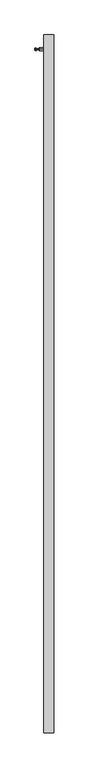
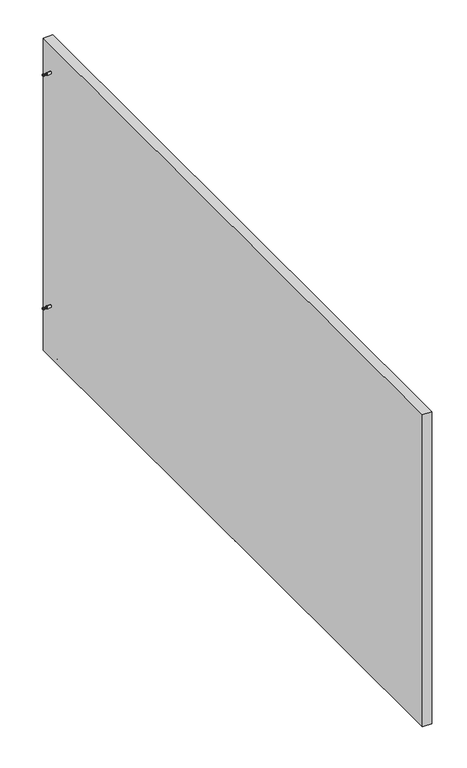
"""IFC4 building model written with IfcOpenShell, lengths in millimetres: furniture geometry, Geiger_GeigerOneCasegoods_VerticalGalleryPanelNoGlassNoCutOuts : Attaches Left."""

from ifc_helpers import new_model, si_unit, point, frame, frame_2d, origin, origin_with_axes, place, context, project, spatial, polyline, circle_curve, ellipse_curve, trimmed, segment, composite_curve, outline, extrude, source, transform, mapped, element, save
from ifc_brep_helpers import plane_surface, cylinder_surface, revolved_surface, advanced_brep


def furniture_dea854d2(model_context):
    return source(origin(), model_context, "Body", "SolidModel", [
        advanced_brep(
        [(-21.3312455, -2218.5017944, -3.3), (-11.6687545, -2218.5017944, -3.3), (-16.5, -2218.5017944, -3.3), (-21.3312455, -2218.5017944, -12.7000041), (-11.6687545, -2218.5017944, -12.7000041), (-16.5, -2218.5017944, -12.7000041)],
        [
            (0, 1, circle_curve(frame((-16.5, -2218.5017944, -3.3), z_axis=(0.0, 0.0, 1.0), x_axis=(1.0, 0.0, 0.0)), 4.8312455)),
            (1, 2),
            (2, 0),
            (1, 0, circle_curve(frame((-16.5, -2218.5017944, -3.3), z_axis=(0.0, 0.0, 1.0), x_axis=(1.0, 0.0, 0.0)), 4.8312455)),
            (3, 4, circle_curve(frame((-16.5, -2218.5017944, -12.7000041), z_axis=(0.0, 0.0, 1.0), x_axis=(1.0, 0.0, 0.0)), 4.8312455)),
            (4, 1, circle_curve(frame((-11.6687545, -2218.5017944, -8.0000021), z_axis=(0.0, -1.0, 0.0), x_axis=(-1.0, 0.0, 0.0)), 4.7000021)),
            (0, 3, circle_curve(frame((-21.3312455, -2218.5017944, -8.0000021), z_axis=(0.0, -1.0, 0.0), x_axis=(1.0, 0.0, 0.0)), 4.7000021)),
            (4, 3, circle_curve(frame((-16.5, -2218.5017944, -12.7000041), z_axis=(0.0, 0.0, 1.0), x_axis=(1.0, 0.0, 0.0)), 4.8312455)),
            (5, 4),
            (3, 5),
        ],
        [
            plane_surface(frame((-16.5, -2218.5017944, -3.3), z_axis=(0.0, 0.0, 1.0), x_axis=(1.0, 0.0, 0.0))),
            revolved_surface(trimmed(ellipse_curve(frame((-11.6687545, -2218.5017944, -8.0000021), z_axis=(0.0, 1.0, 0.0), x_axis=(-1.0, 0.0, 0.0)), 4.7000021, 4.7000021), [point((-11.6687545, -2218.5017944, -3.3))], [point((-11.6687545, -2218.5017944, -12.7000041))], True, "CARTESIAN"), (-16.5, -2218.5017944, -3.3), (0.0, 0.0, -1.0)),
            plane_surface(frame((-16.5, -2218.5017944, -12.7000041), z_axis=(0.0, 0.0, -1.0), x_axis=(1.0, 0.0, 0.0))),
        ],
        [
            (0, [[1, 2, 3]]),
            (0, [[4, -3, -2]]),
            (1, [[5, 6, -1, 7]]),
            (1, [[8, -7, -4, -6]]),
            (2, [[9, -5, 10]]),
            (2, [[-10, -8, -9]]),
        ],
    ),
        advanced_brep(
        [(-21.2750328, -1141.25, -3.3), (-11.7249672, -1141.25, -3.3), (-16.5, -1141.25, -3.3), (-21.2750328, -1141.25, -12.7000041), (-11.7249672, -1141.25, -12.7000041), (-16.5, -1141.25, -12.7000041)],
        [
            (0, 1, circle_curve(frame((-16.5, -1141.25, -3.3), z_axis=(0.0, 0.0, 1.0), x_axis=(1.0, 0.0, 0.0)), 4.7750328)),
            (1, 2),
            (2, 0),
            (1, 0, circle_curve(frame((-16.5, -1141.25, -3.3), z_axis=(0.0, 0.0, 1.0), x_axis=(1.0, 0.0, 0.0)), 4.7750328)),
            (3, 4, circle_curve(frame((-16.5, -1141.25, -12.7000041), z_axis=(0.0, 0.0, 1.0), x_axis=(1.0, 0.0, 0.0)), 4.7750328)),
            (4, 1, circle_curve(frame((-11.7249672, -1141.25, -8.0000021), z_axis=(0.0, -1.0, 0.0), x_axis=(-1.0, 0.0, 0.0)), 4.7000021)),
            (0, 3, circle_curve(frame((-21.2750328, -1141.25, -8.0000021), z_axis=(0.0, -1.0, 0.0), x_axis=(1.0, 0.0, 0.0)), 4.7000021)),
            (4, 3, circle_curve(frame((-16.5, -1141.25, -12.7000041), z_axis=(0.0, 0.0, 1.0), x_axis=(1.0, 0.0, 0.0)), 4.7750328)),
            (5, 4),
            (3, 5),
        ],
        [
            plane_surface(frame((-16.5, -1141.25, -3.3), z_axis=(0.0, 0.0, 1.0), x_axis=(1.0, 0.0, 0.0))),
            revolved_surface(trimmed(ellipse_curve(frame((-11.7249672, -1141.25, -8.0000021), z_axis=(0.0, 1.0, 0.0), x_axis=(-1.0, 0.0, 0.0)), 4.7000021, 4.7000021), [point((-11.7249672, -1141.25, -3.3))], [point((-11.7249672, -1141.25, -12.7000041))], True, "CARTESIAN"), (-16.5, -1141.25, -3.3), (0.0, 0.0, -1.0)),
            plane_surface(frame((-16.5, -1141.25, -12.7000041), z_axis=(0.0, 0.0, -1.0), x_axis=(1.0, 0.0, 0.0))),
        ],
        [
            (0, [[1, 2, 3]]),
            (0, [[4, -3, -2]]),
            (1, [[5, 6, -1, 7]]),
            (1, [[8, -7, -4, -6]]),
            (2, [[9, -5, 10]]),
            (2, [[-10, -8, -9]]),
        ],
    ),
        advanced_brep(
        [(-21.2545965, -64.0, -12.7000041), (-11.7454035, -64.0, -12.7000041), (-16.5, -64.0, -12.7000041), (-21.2545965, -64.0, -3.3), (-11.7454035, -64.0, -3.3), (-16.5, -64.0, -3.3)],
        [
            (0, 1, circle_curve(frame((-16.5, -64.0, -12.7000041), z_axis=(0.0, 0.0, -1.0), x_axis=(1.0, 0.0, 0.0)), 4.7545965)),
            (1, 2),
            (2, 0),
            (1, 0, circle_curve(frame((-16.5, -64.0, -12.7000041), z_axis=(0.0, 0.0, -1.0), x_axis=(1.0, 0.0, 0.0)), 4.7545965)),
            (3, 4, circle_curve(frame((-16.5, -64.0, -3.3), z_axis=(0.0, 0.0, -1.0), x_axis=(1.0, 0.0, 0.0)), 4.7545965)),
            (4, 1, circle_curve(frame((-11.7454035, -64.0, -8.0000021), z_axis=(0.0, 1.0, 0.0), x_axis=(1.0, 0.0, 0.0)), 4.7000021)),
            (0, 3, circle_curve(frame((-21.2545965, -64.0, -8.0000021), z_axis=(0.0, 1.0, 0.0), x_axis=(-1.0, 0.0, 0.0)), 4.7000021)),
            (4, 3, circle_curve(frame((-16.5, -64.0, -3.3), z_axis=(0.0, 0.0, -1.0), x_axis=(1.0, 0.0, 0.0)), 4.7545965)),
            (5, 4),
            (3, 5),
        ],
        [
            plane_surface(frame((-16.5, -64.0, -12.7000041), z_axis=(0.0, 0.0, -1.0), x_axis=(1.0, 0.0, 0.0))),
            revolved_surface(trimmed(ellipse_curve(frame((-11.7454035, -64.0, -8.0000021), z_axis=(0.0, -1.0, 0.0), x_axis=(1.0, 0.0, 0.0)), 4.7000021, 4.7000021), [point((-11.7454035, -64.0, -12.7000041))], [point((-11.7454035, -64.0, -3.3))], True, "CARTESIAN"), (-16.5, -64.0, -3.3), (0.0, 0.0, 1.0)),
            plane_surface(frame((-16.5, -64.0, -3.3), z_axis=(0.0, 0.0, 1.0), x_axis=(1.0, 0.0, 0.0))),
        ],
        [
            (0, [[1, 2, 3]]),
            (0, [[4, -3, -2]]),
            (1, [[5, 6, -1, 7]]),
            (1, [[8, -7, -4, -6]]),
            (2, [[9, -5, 10]]),
            (2, [[-10, -8, -9]]),
        ],
    ),
        extrude(outline(composite_curve([segment(polyline([(-23.5, -2251.75), (-23.5, -2185.25)]), True, "CONTINUOUS"), segment(trimmed(circle_curve(frame_2d((-16.5, -2185.25)), 7.0), [point((-23.5, -2185.25))], [point((-9.5, -2185.25))], False, "CARTESIAN"), True, "CONTINUOUS"), segment(polyline([(-9.5, -2185.25), (-9.5, -2251.75)]), True, "CONTINUOUS"), segment(trimmed(circle_curve(frame_2d((-16.5, -2251.75)), 7.0), [point((-9.5, -2251.75))], [point((-23.5, -2251.75))], False, "CARTESIAN"), True, "CONTINUOUS")], self_intersect=False)), frame((0.0, 0.0, -3.3), z_axis=(0.0, 0.0, 1.0), x_axis=(1.0, 0.0, 0.0)), (0.0, 0.0, 1.0), 3.3),
        extrude(outline(composite_curve([segment(polyline([(-23.5, -1174.5), (-23.5, -1108.0)]), True, "CONTINUOUS"), segment(trimmed(circle_curve(frame_2d((-16.5, -1108.0)), 7.0), [point((-23.5, -1108.0))], [point((-9.5, -1108.0))], False, "CARTESIAN"), True, "CONTINUOUS"), segment(polyline([(-9.5, -1108.0), (-9.5, -1174.5)]), True, "CONTINUOUS"), segment(trimmed(circle_curve(frame_2d((-16.5, -1174.5)), 7.0), [point((-9.5, -1174.5))], [point((-23.5, -1174.5))], False, "CARTESIAN"), True, "CONTINUOUS")], self_intersect=False)), frame((0.0, 0.0, -3.3), z_axis=(0.0, 0.0, 1.0), x_axis=(1.0, 0.0, 0.0)), (0.0, 0.0, 1.0), 3.3),
        extrude(outline(composite_curve([segment(polyline([(-23.5, -97.25), (-23.5, -30.75)]), True, "CONTINUOUS"), segment(trimmed(circle_curve(frame_2d((-16.5, -30.75)), 7.0), [point((-23.5, -30.75))], [point((-9.5, -30.75))], False, "CARTESIAN"), True, "CONTINUOUS"), segment(polyline([(-9.5, -30.75), (-9.5, -97.25)]), True, "CONTINUOUS"), segment(trimmed(circle_curve(frame_2d((-16.5, -97.25)), 7.0), [point((-9.5, -97.25))], [point((-23.5, -97.25))], False, "CARTESIAN"), True, "CONTINUOUS")], self_intersect=False)), frame((0.0, 0.0, -3.3), z_axis=(0.0, 0.0, 1.0), x_axis=(1.0, 0.0, 0.0)), (0.0, 0.0, 1.0), 3.3),
        advanced_brep(
        [(-61.501439, -46.8916519, 1045.0175814), (-61.501439, -46.8916519, 1050.3824186), (-61.501439, -46.8916519, 1047.7), (-61.0118204, -46.8916519, 1044.3436791), (-61.0118204, -46.8916519, 1051.0563209), (-58.561461, -46.8916519, 1043.5475091), (-58.561461, -46.8916519, 1051.8524909), (-57.6843002, -46.8916519, 1043.8696704), (-57.6843002, -46.8916519, 1051.5303296), (-56.4803404, -46.8916519, 1045.8216583), (-56.4803404, -46.8916519, 1049.5783417), (-50.1303404, -46.8916519, 1045.8216583), (-50.1303404, -46.8916519, 1049.5783417), (-49.4999948, -46.8916519, 1045.1913127), (-49.4999948, -46.8916519, 1050.2086873), (-49.4999948, -46.8916519, 1044.121261), (-49.4999948, -46.8916519, 1051.278739), (-47.9967305, -46.8916519, 1043.1940679), (-47.9967305, -46.8916519, 1052.2059321), (-33.0, -46.8916519, 1043.1940679), (-33.0, -46.8916519, 1052.2059321), (-33.0, -46.8916519, 1047.7)],
        [
            (0, 1, circle_curve(frame((-61.501439, -46.8916519, 1047.7), z_axis=(-1.0, 0.0, 0.0), x_axis=(0.0, 0.0, 1.0)), 2.6824186)),
            (1, 2),
            (2, 0),
            (1, 0, circle_curve(frame((-61.501439, -46.8916519, 1047.7), z_axis=(-1.0, 0.0, 0.0), x_axis=(0.0, 0.0, 1.0)), 2.6824186)),
            (3, 4, circle_curve(frame((-61.0118204, -46.8916519, 1047.7), z_axis=(-1.0, 0.0, 0.0), x_axis=(0.0, 0.0, 1.0)), 3.3563209)),
            (4, 1, circle_curve(frame((-60.7928563, -46.8916519, 1050.3824186), z_axis=(0.0, -1.0, 0.0), x_axis=(-1.0, 0.0, 0.0)), 0.7085827)),
            (0, 3, circle_curve(frame((-60.7928563, -46.8916519, 1045.0175814), z_axis=(0.0, -1.0, 0.0), x_axis=(-1.0, 0.0, 0.0)), 0.7085827)),
            (4, 3, circle_curve(frame((-61.0118204, -46.8916519, 1047.7), z_axis=(-1.0, 0.0, 0.0), x_axis=(0.0, 0.0, 1.0)), 3.3563209)),
            (5, 6, circle_curve(frame((-58.561461, -46.8916519, 1047.7), z_axis=(-1.0, 0.0, 0.0), x_axis=(0.0, 0.0, 1.0)), 4.1524909)),
            (6, 4),
            (3, 5),
            (6, 5, circle_curve(frame((-58.561461, -46.8916519, 1047.7), z_axis=(-1.0, 0.0, 0.0), x_axis=(0.0, 0.0, 1.0)), 4.1524909)),
            (7, 8, circle_curve(frame((-57.6843002, -46.8916519, 1047.7), z_axis=(-1.0, 0.0, 0.0), x_axis=(0.0, 0.0, 1.0)), 3.8303296)),
            (8, 6, circle_curve(frame((-58.3278193, -46.8916519, 1051.1334157), z_axis=(0.0, -1.0, 0.0), x_axis=(-1.0, 0.0, 0.0)), 0.7560804)),
            (5, 7, circle_curve(frame((-58.3278193, -46.8916519, 1044.2665843), z_axis=(0.0, -1.0, 0.0), x_axis=(-1.0, 0.0, 0.0)), 0.7560804)),
            (8, 7, circle_curve(frame((-57.6843002, -46.8916519, 1047.7), z_axis=(-1.0, 0.0, 0.0), x_axis=(0.0, 0.0, 1.0)), 3.8303296)),
            (9, 10, circle_curve(frame((-56.4803404, -46.8916519, 1047.7), z_axis=(-1.0, 0.0, 0.0), x_axis=(0.0, 0.0, 1.0)), 1.8783417)),
            (10, 8),
            (7, 9),
            (10, 9, circle_curve(frame((-56.4803404, -46.8916519, 1047.7), z_axis=(-1.0, 0.0, 0.0), x_axis=(0.0, 0.0, 1.0)), 1.8783417)),
            (11, 12, circle_curve(frame((-50.1303404, -46.8916519, 1047.7), z_axis=(-1.0, 0.0, 0.0), x_axis=(0.0, 0.0, 1.0)), 1.8783417)),
            (12, 10),
            (9, 11),
            (12, 11, circle_curve(frame((-50.1303404, -46.8916519, 1047.7), z_axis=(-1.0, 0.0, 0.0), x_axis=(0.0, 0.0, 1.0)), 1.8783417)),
            (13, 14, circle_curve(frame((-49.4999948, -46.8916519, 1047.7), z_axis=(-1.0, 0.0, 0.0), x_axis=(0.0, 0.0, 1.0)), 2.5086873)),
            (14, 12),
            (11, 13),
            (14, 13, circle_curve(frame((-49.4999948, -46.8916519, 1047.7), z_axis=(-1.0, 0.0, 0.0), x_axis=(0.0, 0.0, 1.0)), 2.5086873)),
            (15, 16, circle_curve(frame((-49.4999948, -46.8916519, 1047.7), z_axis=(-1.0, 0.0, 0.0), x_axis=(0.0, 0.0, 1.0)), 3.578739)),
            (16, 14),
            (13, 15),
            (16, 15, circle_curve(frame((-49.4999948, -46.8916519, 1047.7), z_axis=(-1.0, 0.0, 0.0), x_axis=(0.0, 0.0, 1.0)), 3.578739)),
            (17, 18, circle_curve(frame((-47.9967305, -46.8916519, 1047.7), z_axis=(-1.0, 0.0, 0.0), x_axis=(0.0, 0.0, 1.0)), 4.5059321)),
            (18, 16),
            (15, 17),
            (18, 17, circle_curve(frame((-47.9967305, -46.8916519, 1047.7), z_axis=(-1.0, 0.0, 0.0), x_axis=(0.0, 0.0, 1.0)), 4.5059321)),
            (19, 20, circle_curve(frame((-33.0, -46.8916519, 1047.7), z_axis=(-1.0, 0.0, 0.0), x_axis=(0.0, 0.0, 1.0)), 4.5059321)),
            (20, 18),
            (17, 19),
            (20, 19, circle_curve(frame((-33.0, -46.8916519, 1047.7), z_axis=(-1.0, 0.0, 0.0), x_axis=(0.0, 0.0, 1.0)), 4.5059321)),
            (21, 20),
            (19, 21),
        ],
        [
            plane_surface(frame((-61.501439, -46.8916519, 1047.7), z_axis=(-1.0, 0.0, 0.0), x_axis=(0.0, 0.0, 1.0))),
            revolved_surface(trimmed(ellipse_curve(frame((-60.7928563, -46.8916519, 1050.3824186), z_axis=(0.0, 1.0, 0.0), x_axis=(-1.0, 0.0, 0.0)), 0.7085827, 0.7085827), [point((-61.501439, -46.8916519, 1050.3824186))], [point((-61.0118204, -46.8916519, 1051.0563209))], True, "CARTESIAN"), (-61.501439, -46.8916519, 1047.7), (1.0, 0.0, 0.0)),
            revolved_surface(polyline([(-61.0118204, -46.8916519, 1051.0563209), (-58.561461, -46.8916519, 1051.8524909)]), (-61.501439, -46.8916519, 1047.7), (1.0, 0.0, 0.0)),
            revolved_surface(trimmed(ellipse_curve(frame((-58.3278193, -46.8916519, 1051.1334157), z_axis=(0.0, 1.0, 0.0), x_axis=(-1.0, 0.0, 0.0)), 0.7560804, 0.7560804), [point((-58.561461, -46.8916519, 1051.8524909))], [point((-57.6843002, -46.8916519, 1051.5303296))], True, "CARTESIAN"), (-61.501439, -46.8916519, 1047.7), (1.0, 0.0, 0.0)),
            revolved_surface(polyline([(-57.6843002, -46.8916519, 1051.5303296), (-56.4803404, -46.8916519, 1049.5783417)]), (-61.501439, -46.8916519, 1047.7), (1.0, 0.0, 0.0)),
            cylinder_surface(frame((-61.501439, -46.8916519, 1047.7), z_axis=(1.0, 0.0, 0.0), x_axis=(0.0, 0.0, 1.0)), 1.8783417),
            revolved_surface(polyline([(-50.1303404, -46.8916519, 1049.5783417), (-49.4999948, -46.8916519, 1050.2086873)]), (-61.501439, -46.8916519, 1047.7), (1.0, 0.0, 0.0)),
            plane_surface(frame((-49.4999948, -46.8916519, 1047.7), z_axis=(-1.0, 0.0, 0.0), x_axis=(0.0, 0.0, 1.0))),
            revolved_surface(polyline([(-49.4999948, -46.8916519, 1051.278739), (-47.9967305, -46.8916519, 1052.2059321)]), (-61.501439, -46.8916519, 1047.7), (1.0, 0.0, 0.0)),
            cylinder_surface(frame((-61.501439, -46.8916519, 1047.7), z_axis=(1.0, 0.0, 0.0), x_axis=(0.0, 0.0, 1.0)), 4.5059321),
            plane_surface(frame((-33.0, -46.8916519, 1047.7), z_axis=(1.0, 0.0, 0.0), x_axis=(0.0, 0.0, 1.0))),
        ],
        [
            (0, [[1, 2, 3]]),
            (0, [[4, -3, -2]]),
            (1, [[5, 6, -1, 7]]),
            (1, [[8, -7, -4, -6]]),
            (2, [[9, 10, -5, 11]]),
            (2, [[12, -11, -8, -10]]),
            (3, [[13, 14, -9, 15]]),
            (3, [[16, -15, -12, -14]]),
            (4, [[17, 18, -13, 19]]),
            (4, [[20, -19, -16, -18]]),
            (5, [[21, 22, -17, 23]]),
            (5, [[24, -23, -20, -22]]),
            (6, [[25, 26, -21, 27]]),
            (6, [[28, -27, -24, -26]]),
            (7, [[29, 30, -25, 31]]),
            (7, [[32, -31, -28, -30]]),
            (8, [[33, 34, -29, 35]]),
            (8, [[36, -35, -32, -34]]),
            (9, [[37, 38, -33, 39]]),
            (9, [[40, -39, -36, -38]]),
            (10, [[41, -37, 42]]),
            (10, [[-42, -40, -41]]),
        ],
    ),
        advanced_brep(
        [(-61.501439, -46.8916519, 187.8175814), (-61.501439, -46.8916519, 193.1824186), (-61.501439, -46.8916519, 190.5), (-61.0118204, -46.8916519, 187.1436791), (-61.0118204, -46.8916519, 193.8563209), (-58.561461, -46.8916519, 186.3475091), (-58.561461, -46.8916519, 194.6524909), (-57.6843002, -46.8916519, 186.6696704), (-57.6843002, -46.8916519, 194.3303296), (-56.4803404, -46.8916519, 188.6216583), (-56.4803404, -46.8916519, 192.3783417), (-50.1303404, -46.8916519, 188.6216583), (-50.1303404, -46.8916519, 192.3783417), (-49.4999948, -46.8916519, 187.9913127), (-49.4999948, -46.8916519, 193.0086873), (-49.4999948, -46.8916519, 186.921261), (-49.4999948, -46.8916519, 194.078739), (-47.9967305, -46.8916519, 185.9940679), (-47.9967305, -46.8916519, 195.0059321), (-33.0, -46.8916519, 185.9940679), (-33.0, -46.8916519, 195.0059321), (-33.0, -46.8916519, 190.5)],
        [
            (0, 1, circle_curve(frame((-61.501439, -46.8916519, 190.5), z_axis=(-1.0, 0.0, 0.0), x_axis=(0.0, 0.0, 1.0)), 2.6824186)),
            (1, 2),
            (2, 0),
            (1, 0, circle_curve(frame((-61.501439, -46.8916519, 190.5), z_axis=(-1.0, 0.0, 0.0), x_axis=(0.0, 0.0, 1.0)), 2.6824186)),
            (3, 4, circle_curve(frame((-61.0118204, -46.8916519, 190.5), z_axis=(-1.0, 0.0, 0.0), x_axis=(0.0, 0.0, 1.0)), 3.3563209)),
            (4, 1, circle_curve(frame((-60.7928563, -46.8916519, 193.1824186), z_axis=(0.0, -1.0, 0.0), x_axis=(-1.0, 0.0, 0.0)), 0.7085827)),
            (0, 3, circle_curve(frame((-60.7928563, -46.8916519, 187.8175814), z_axis=(0.0, -1.0, 0.0), x_axis=(-1.0, 0.0, 0.0)), 0.7085827)),
            (4, 3, circle_curve(frame((-61.0118204, -46.8916519, 190.5), z_axis=(-1.0, 0.0, 0.0), x_axis=(0.0, 0.0, 1.0)), 3.3563209)),
            (5, 6, circle_curve(frame((-58.561461, -46.8916519, 190.5), z_axis=(-1.0, 0.0, 0.0), x_axis=(0.0, 0.0, 1.0)), 4.1524909)),
            (6, 4),
            (3, 5),
            (6, 5, circle_curve(frame((-58.561461, -46.8916519, 190.5), z_axis=(-1.0, 0.0, 0.0), x_axis=(0.0, 0.0, 1.0)), 4.1524909)),
            (7, 8, circle_curve(frame((-57.6843002, -46.8916519, 190.5), z_axis=(-1.0, 0.0, 0.0), x_axis=(0.0, 0.0, 1.0)), 3.8303296)),
            (8, 6, circle_curve(frame((-58.3278193, -46.8916519, 193.9334157), z_axis=(0.0, -1.0, 0.0), x_axis=(-1.0, 0.0, 0.0)), 0.7560804)),
            (5, 7, circle_curve(frame((-58.3278193, -46.8916519, 187.0665843), z_axis=(0.0, -1.0, 0.0), x_axis=(-1.0, 0.0, 0.0)), 0.7560804)),
            (8, 7, circle_curve(frame((-57.6843002, -46.8916519, 190.5), z_axis=(-1.0, 0.0, 0.0), x_axis=(0.0, 0.0, 1.0)), 3.8303296)),
            (9, 10, circle_curve(frame((-56.4803404, -46.8916519, 190.5), z_axis=(-1.0, 0.0, 0.0), x_axis=(0.0, 0.0, 1.0)), 1.8783417)),
            (10, 8),
            (7, 9),
            (10, 9, circle_curve(frame((-56.4803404, -46.8916519, 190.5), z_axis=(-1.0, 0.0, 0.0), x_axis=(0.0, 0.0, 1.0)), 1.8783417)),
            (11, 12, circle_curve(frame((-50.1303404, -46.8916519, 190.5), z_axis=(-1.0, 0.0, 0.0), x_axis=(0.0, 0.0, 1.0)), 1.8783417)),
            (12, 10),
            (9, 11),
            (12, 11, circle_curve(frame((-50.1303404, -46.8916519, 190.5), z_axis=(-1.0, 0.0, 0.0), x_axis=(0.0, 0.0, 1.0)), 1.8783417)),
            (13, 14, circle_curve(frame((-49.4999948, -46.8916519, 190.5), z_axis=(-1.0, 0.0, 0.0), x_axis=(0.0, 0.0, 1.0)), 2.5086873)),
            (14, 12),
            (11, 13),
            (14, 13, circle_curve(frame((-49.4999948, -46.8916519, 190.5), z_axis=(-1.0, 0.0, 0.0), x_axis=(0.0, 0.0, 1.0)), 2.5086873)),
            (15, 16, circle_curve(frame((-49.4999948, -46.8916519, 190.5), z_axis=(-1.0, 0.0, 0.0), x_axis=(0.0, 0.0, 1.0)), 3.578739)),
            (16, 14),
            (13, 15),
            (16, 15, circle_curve(frame((-49.4999948, -46.8916519, 190.5), z_axis=(-1.0, 0.0, 0.0), x_axis=(0.0, 0.0, 1.0)), 3.578739)),
            (17, 18, circle_curve(frame((-47.9967305, -46.8916519, 190.5), z_axis=(-1.0, 0.0, 0.0), x_axis=(0.0, 0.0, 1.0)), 4.5059321)),
            (18, 16),
            (15, 17),
            (18, 17, circle_curve(frame((-47.9967305, -46.8916519, 190.5), z_axis=(-1.0, 0.0, 0.0), x_axis=(0.0, 0.0, 1.0)), 4.5059321)),
            (19, 20, circle_curve(frame((-33.0, -46.8916519, 190.5), z_axis=(-1.0, 0.0, 0.0), x_axis=(0.0, 0.0, 1.0)), 4.5059321)),
            (20, 18),
            (17, 19),
            (20, 19, circle_curve(frame((-33.0, -46.8916519, 190.5), z_axis=(-1.0, 0.0, 0.0), x_axis=(0.0, 0.0, 1.0)), 4.5059321)),
            (21, 20),
            (19, 21),
        ],
        [
            plane_surface(frame((-61.501439, -46.8916519, 190.5), z_axis=(-1.0, 0.0, 0.0), x_axis=(0.0, 0.0, 1.0))),
            revolved_surface(trimmed(ellipse_curve(frame((-60.7928563, -46.8916519, 193.1824186), z_axis=(0.0, 1.0, 0.0), x_axis=(-1.0, 0.0, 0.0)), 0.7085827, 0.7085827), [point((-61.501439, -46.8916519, 193.1824186))], [point((-61.0118204, -46.8916519, 193.8563209))], True, "CARTESIAN"), (-61.501439, -46.8916519, 190.5), (1.0, 0.0, 0.0)),
            revolved_surface(polyline([(-61.0118204, -46.8916519, 193.8563209), (-58.561461, -46.8916519, 194.6524909)]), (-61.501439, -46.8916519, 190.5), (1.0, 0.0, 0.0)),
            revolved_surface(trimmed(ellipse_curve(frame((-58.3278193, -46.8916519, 193.9334157), z_axis=(0.0, 1.0, 0.0), x_axis=(-1.0, 0.0, 0.0)), 0.7560804, 0.7560804), [point((-58.561461, -46.8916519, 194.6524909))], [point((-57.6843002, -46.8916519, 194.3303296))], True, "CARTESIAN"), (-61.501439, -46.8916519, 190.5), (1.0, 0.0, 0.0)),
            revolved_surface(polyline([(-57.6843002, -46.8916519, 194.3303296), (-56.4803404, -46.8916519, 192.3783417)]), (-61.501439, -46.8916519, 190.5), (1.0, 0.0, 0.0)),
            cylinder_surface(frame((-61.501439, -46.8916519, 190.5), z_axis=(1.0, 0.0, 0.0), x_axis=(0.0, 0.0, 1.0)), 1.8783417),
            revolved_surface(polyline([(-50.1303404, -46.8916519, 192.3783417), (-49.4999948, -46.8916519, 193.0086873)]), (-61.501439, -46.8916519, 190.5), (1.0, 0.0, 0.0)),
            plane_surface(frame((-49.4999948, -46.8916519, 190.5), z_axis=(-1.0, 0.0, 0.0), x_axis=(0.0, 0.0, 1.0))),
            revolved_surface(polyline([(-49.4999948, -46.8916519, 194.078739), (-47.9967305, -46.8916519, 195.0059321)]), (-61.501439, -46.8916519, 190.5), (1.0, 0.0, 0.0)),
            cylinder_surface(frame((-61.501439, -46.8916519, 190.5), z_axis=(1.0, 0.0, 0.0), x_axis=(0.0, 0.0, 1.0)), 4.5059321),
            plane_surface(frame((-33.0, -46.8916519, 190.5), z_axis=(1.0, 0.0, 0.0), x_axis=(0.0, 0.0, 1.0))),
        ],
        [
            (0, [[1, 2, 3]]),
            (0, [[4, -3, -2]]),
            (1, [[5, 6, -1, 7]]),
            (1, [[8, -7, -4, -6]]),
            (2, [[9, 10, -5, 11]]),
            (2, [[12, -11, -8, -10]]),
            (3, [[13, 14, -9, 15]]),
            (3, [[16, -15, -12, -14]]),
            (4, [[17, 18, -13, 19]]),
            (4, [[20, -19, -16, -18]]),
            (5, [[21, 22, -17, 23]]),
            (5, [[24, -23, -20, -22]]),
            (6, [[25, 26, -21, 27]]),
            (6, [[28, -27, -24, -26]]),
            (7, [[29, 30, -25, 31]]),
            (7, [[32, -31, -28, -30]]),
            (8, [[33, 34, -29, 35]]),
            (8, [[36, -35, -32, -34]]),
            (9, [[37, 38, -33, 39]]),
            (9, [[40, -39, -36, -38]]),
            (10, [[41, -37, 42]]),
            (10, [[-42, -40, -41]]),
        ],
    ),
        extrude(outline(polyline([(0.0, 0.0), (0.0, -2282.5), (-33.0, -2282.5), (-33.0, 0.0), (0.0, 0.0)])), origin_with_axes(), (0.0, 0.0, 1.0), 1146.175),
    ])


if __name__ == "__main__":
    model = new_model("IFC4")
    model_context = context("Model", 3, world=origin())
    ifc_project = project(units=[si_unit("LENGTHUNIT", "METRE", prefix="MILLI")], contexts=[model_context])
    site = spatial("IfcSite", under=ifc_project)
    building = spatial("IfcBuilding", under=site)
    placement = place(None, origin())
    furniture_shape = furniture_dea854d2(model_context)
    element("IfcFurniture", 1, ObjectType="Geiger_GeigerOneCasegoods_VerticalGalleryPanelNoGlassNoCutOuts : Attaches Left", at=placement, inside=building, context=model_context, shape_type="MappedRepresentation", body=[
        mapped(furniture_shape, transform((0.0, 0.0, 0.0), x_axis=(1.0, 0.0, 0.0), y_axis=(0.0, 1.0, 0.0), z_axis=(0.0, 0.0, 1.0))),
    ])
    save(model, "model.ifc")
